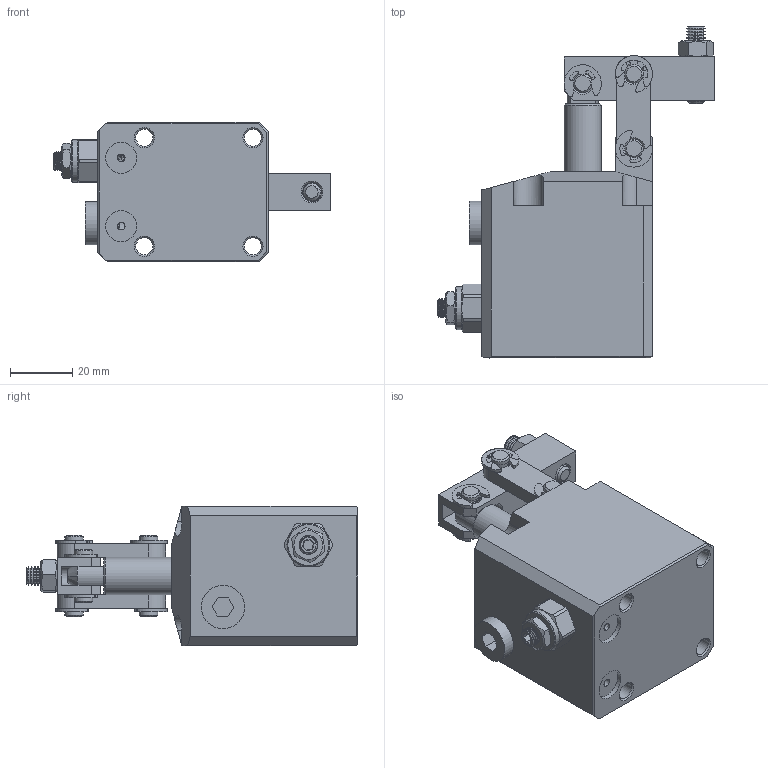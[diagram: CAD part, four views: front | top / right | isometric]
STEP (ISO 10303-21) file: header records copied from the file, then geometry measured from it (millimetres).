
FILE_DESCRIPTION(/* description */ ('STEP AP203'),/* implementation_level */ '2;1');
FILE_NAME(/* name */ 'D:\Vault_2016\Projekty\Clamptek\Hydraulic\CBLU\CBLU-25\STEP\CBLU-25C.stp',/* time_stamp */ '2021-05-06T11:52:47+02:00',/* author */ ('user'),/* organization */ (''),/* preprocessor_version */ 'ST-DEVELOPER v18.1',/* originating_system */ 'Autodesk Inventor 2021',/* authorisation */ '');
FILE_SCHEMA (('AUTOMOTIVE_DESIGN { 1 0 10303 214 3 1 1 }'));
Length unit declared in the file: millimetre
Products named in the file (12): CBLU-25C; ±¾Ìå_1; »îÈû¸Ë_2_1; Ñ¹±Û_1; Á¬¸Ë_1; hex nuts, style 1-grades ab gb_GB_FASTENER_NUT_SNAB1 M6-N_1; ³¤ÏúÖá_1; ¶ÌÏúÖá_1; socket set screw flat point_iso2_ISO 4026 - M6 x 4-S_1; ÄÚÁù½Ç¶ÂÍ·×
îÐÂ_1; CZL10µ÷ËÙ·§_2; e rings gb_GB_CONNECTING_PIECE_RINGS_HR 6_1
Assembly tree (19 placements, depth 2):
  CBLU-25C
    ±¾Ìå_1
    »îÈû¸Ë_2_1
    Ñ¹±Û_1
    Á¬¸Ë_1  x2
    hex nuts, style 1-grades ab gb_GB_FASTENER_NUT_SNAB1 M6-N_1
    e rings gb_GB_CONNECTING_PIECE_RINGS_HR 6_1  x7
    ³¤ÏúÖá_1  x2
    ¶ÌÏúÖá_1
    socket set screw flat point_iso2_ISO 4026 - M6 x 4-S_1
    ÄÚÁù½Ç¶ÂÍ·×
îÐÂ_1
    CZL10µ÷ËÙ·§_2
Bounding box: 89.3 x 107 x 45 mm (x, y, z)
Volume: 143010.3 mm3; surface area: 42798 mm2
Topology: 23 solids, 23 shells, 691 faces, 1808 edges, 1181 vertices
Faces by surface type: cylinder 266, plane 230, cone 130, bspline 51, torus 14
Full cylindrical faces by diameter (mm): 1 x6, 1.6 x1, 2 x2, 2.5 x1, 3.3 x1, 3.8 x1, 4.917 x5, 5 x8, 5.5 x4, 5.6 x1, 6 x81, 6.1 x1, 7 x1, 8 x1, 8.7 x1, 8.8 x1, 9 x3, 10 x2, 12 x2, 12.6 x1, 12.7 x1, 13.8 x1, 14 x1, 19.625 x1, 20 x1, 25 x2, 30 x1, 32 x1
Entity records: 29370 total; most frequent: CARTESIAN_POINT 15812, ORIENTED_EDGE 2850, DIRECTION 2662, EDGE_CURVE 1425, AXIS2_PLACEMENT_3D 1025, VERTEX_POINT 928, EDGE_LOOP 619, LINE 612
